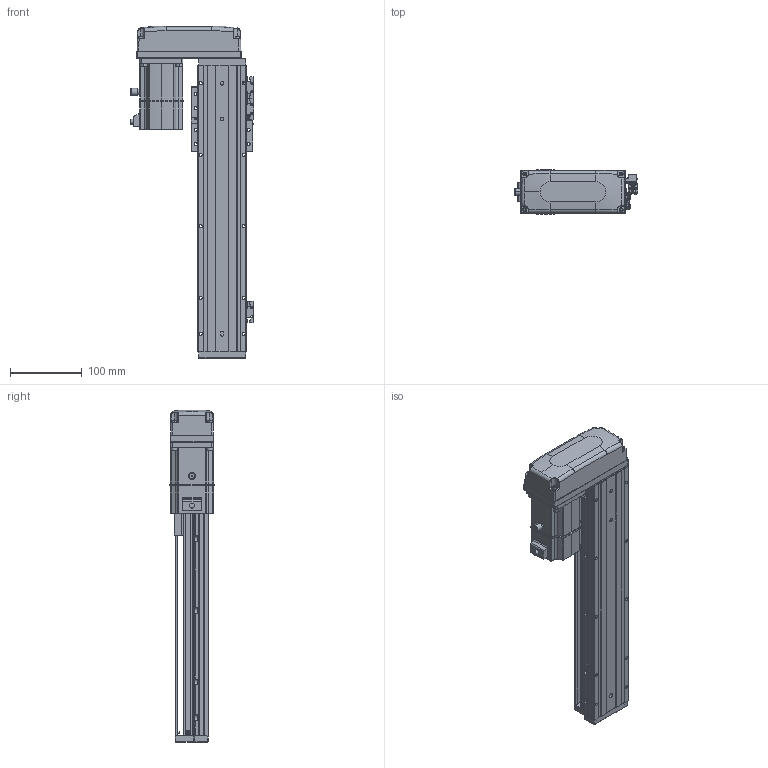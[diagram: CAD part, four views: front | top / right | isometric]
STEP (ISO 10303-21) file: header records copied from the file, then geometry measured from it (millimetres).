
FILE_DESCRIPTION (( 'STEP AP203' ), '1' );
FILE_NAME ('KTHAL60-250-BR-M20-C4L.step', '2022-12-16T02:14:48', ( '微软用户' ), ( '微软中国' ), 'SwSTEP 2.0', 'SolidWorks 2020', '' );
FILE_SCHEMA (( 'CONFIG_CONTROL_DESIGN' ));
Length unit declared in the file: millimetre
Products named in the file (17): KTHLA60-002; CTHA60-021; GTH80-026; KTHA60-004; GBT 70.1-M4×16; KTHAL60-250-BR-M20-C4L; KTHA60-005; GBT77-2000M3-3; GB¨uT 70.2-M3¡Á5_M3¡Á6; GBT 70.1-M3℅6; GBT 70.3-M3℅6; CTHA60-016; EE_SX911P_R; _X2_4E0983F1_X0_200W_1; KTHA60-001_400; CTHA60-017; CTHA60-015-4_CTHA60-015-4
Assembly tree (45 placements, depth 2):
  KTHAL60-250-BR-M20-C4L
    KTHA60-001_400
    KTHLA60-002
    KTHA60-004
    KTHA60-005
    GB¨uT 70.2-M3¡Á5_M3¡Á6  x5
    GBT 70.3-M3℅6  x4
    EE_SX911P_R  x3
    CTHA60-017  x3
    CTHA60-021  x2
    GBT 70.1-M4×16  x8
    GBT77-2000M3-3  x6
    GBT 70.1-M3℅6  x6
    CTHA60-016
    _X2_4E0983F1_X0_200W_1
    CTHA60-015-4_CTHA60-015-4
    GTH80-026
Bounding box: 173.02 x 62.42 x 464 mm (x, y, z)
Volume: 1513587.7 mm3; surface area: 309713.9 mm2
Topology: 48 solids, 48 shells, 2311 faces, 5492 edges, 3373 vertices
Faces by surface type: plane 1235, cylinder 611, cone 266, bspline 103, torus 82, sphere 14
Entity records: 44601 total; most frequent: CARTESIAN_POINT 10042, DIRECTION 6701, ORIENTED_EDGE 6608, EDGE_CURVE 3304, AXIS2_PLACEMENT_3D 2316, LINE 2069, VECTOR 2069, VERTEX_POINT 2057
